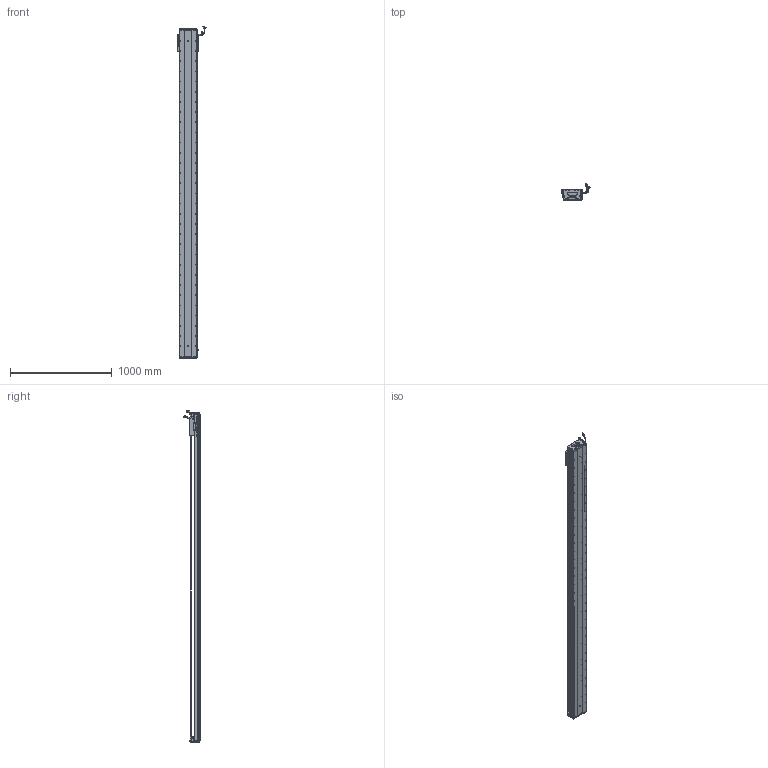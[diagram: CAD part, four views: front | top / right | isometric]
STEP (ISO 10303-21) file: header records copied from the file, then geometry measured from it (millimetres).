
FILE_DESCRIPTION (( 'STEP AP203' ), '1' );
FILE_NAME ('Z2-RY170D-1-L500-B-K.SLDASM_2950.step', '2021-05-17T09:13:39', ( '盈信电脑' ), ( '东莞市道滘镇水果街19号' ), 'SwSTEP 2.0', 'SolidWorks 2016', '' );
FILE_SCHEMA (( 'CONFIG_CONTROL_DESIGN' ));
Length unit declared in the file: millimetre
Products named in the file (36): SEAL; SEAL-Part-1; HARNESS; Z-RY170詩湍奻揤裔; LABEL-Part-1; SCREW-M1.6-2; COVER; SHIELDPLATE; 140蚥薯蝶輸; SCREW-M1.6-1; SCREW-M1.7; HARNESS-Part-1; Z-170詩湍傷裔啣; 170-Z-臏賑輸盄裔(21遴); Z-RY170詩湍狟揤裔; PSLH080_PSLF2; SCREW-M1.7-1; Z2-RY170D-1-L500-B-K.SLDASM_2950; RY170直线电机感应器672光电感应片; Z2-RY170-L500詩湍145mm遵_2950; HARNESS-Part-2; 覜茼ん672; COVER-Part-1; 080黍杅芛假蚾釱21遴; SCREW-M1.6-3; Z2-RY170臏賑輸(21遴); SCALE-Part-1; 榋妏寠巭燃_暯_M2_2; SCALE-Part-2; SCALE; Z2-RY170-L500耀郪菁釱_2950; LABEL; PBU_SHEET; HOLDER0; 140雄赽晤鎢ん堤盄; SCREW-M1.6
Assembly tree (41 placements, depth 4):
  Z2-RY170D-1-L500-B-K.SLDASM_2950
    Z2-RY170-L500耀郪菁釱_2950
    RY170直线电机感应器672光电感应片
    Z2-RY170臏賑輸(21遴)
    覜茼ん672  x3
    PSLH080_PSLF2
      SCALE
        SCALE-Part-1
        SCALE-Part-2
      HARNESS
        HARNESS-Part-1
        HARNESS-Part-2
      LABEL
        LABEL-Part-1
      COVER
        COVER-Part-1
      SEAL
        SEAL-Part-1
      榋妏寠巭燃_暯_M2_2
      SHIELDPLATE
      SCREW-M1.7
      SCREW-M1.7-1
      PBU_SHEET
      SCREW-M1.6
      SCREW-M1.6-1
      SCREW-M1.6-2
      SCREW-M1.6-3
      HOLDER0
    080黍杅芛假蚾釱21遴
    Z2-RY170-L500詩湍145mm遵_2950
    Z-170詩湍傷裔啣  x2
    Z-RY170詩湍奻揤裔  x2
    Z-RY170詩湍狟揤裔  x2
    140蚥薯蝶輸  x2
    170-Z-臏賑輸盄裔(21遴)
    140雄赽晤鎢ん堤盄
Bounding box: 275.29 x 158.11 x 3263.72 mm (x, y, z)
Volume: 15637930.3 mm3; surface area: 3886447.7 mm2
Topology: 36 solids, 36 shells, 4448 faces, 12443 edges, 7753 vertices
Faces by surface type: cylinder 2298, plane 1368, cone 660, torus 69, bspline 53
Entity records: 142543 total; most frequent: CARTESIAN_POINT 40738, ORIENTED_EDGE 21170, DIRECTION 19473, EDGE_CURVE 10585, AXIS2_PLACEMENT_3D 7194, VERTEX_POINT 6871, VECTOR 5085, LINE 5085
